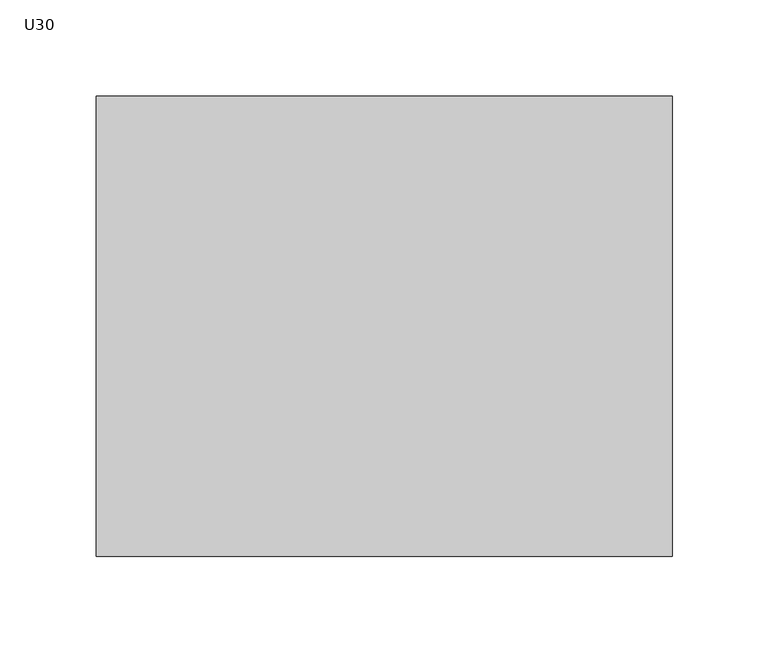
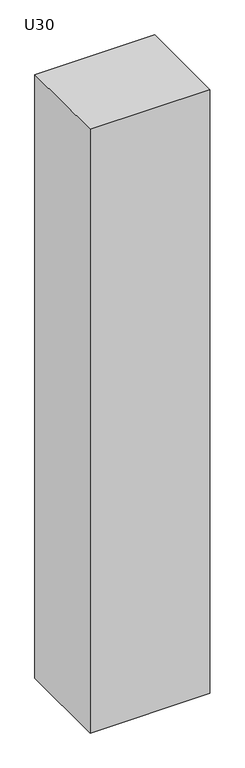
"""IFC4 building model written with IfcOpenShell, lengths in millimetres: column geometry, U30_slup : U30."""

import ifcopenshell
import ifcopenshell.guid

model = None  # the IFC model being written
_history = None  # IfcOwnerHistory: only IFC2X3 demands one
_inside = {}  # id of a spatial element -> (the spatial element, [elements in it])
_under = {}  # id of a project, library or spatial element -> (it, [spatial elements below it])
_declared = {}  # id of a project -> (the project, [libraries it declares])
_typed = {}  # id of a type object -> (the type object, [elements of that type])
_made_of = {}  # id of a material, layer set ... -> (it, [elements and type objects made of it])


def new_model(schema):
    """Start an empty IFC model of exactly this schema.

    Asked for "IFC4X3", IfcOpenShell would pick the latest addendum, in which some entities
    have other attributes; the version numbers below select the first issue.
    IFC2X3 requires an IfcOwnerHistory on every rooted entity: one is made here for all.
    """
    global model, _history
    if schema == "IFC4X3":
        model = ifcopenshell.file(schema_version=(4, 3, 0, 0))
    else:
        model = ifcopenshell.file(schema=schema)
    _inside.clear()
    _under.clear()
    _declared.clear()
    _typed.clear()
    _made_of.clear()
    _history = None
    if model.schema == "IFC2X3":
        org = make("IfcOrganization", Name="unknown")
        user = make(
            "IfcPersonAndOrganization",
            ThePerson=make("IfcPerson", FamilyName="unknown"),
            TheOrganization=org,
        )
        app = make(
            "IfcApplication",
            ApplicationDeveloper=org,
            Version="unknown",
            ApplicationFullName="unknown",
            ApplicationIdentifier="unknown",
        )
        _history = make(
            "IfcOwnerHistory",
            OwningUser=user,
            OwningApplication=app,
            ChangeAction="ADDED",
            CreationDate=0,
        )
    return model


def make(cls, **values):
    """One entity of the class cls with the attributes given. An attribute that is None is left unset."""
    return model.create_entity(
        cls, **{name: value for name, value in values.items() if value is not None}
    )


def rooted(cls, **values):
    """An entity with a GlobalId (a new one), such as an element, a storey or a relation."""
    return make(cls, GlobalId=ifcopenshell.guid.new(), OwnerHistory=_history, **values)


def si_unit(unit_type, name, prefix=None):
    """IfcSIUnit, for example si_unit("LENGTHUNIT", "METRE", prefix="MILLI")."""
    return make("IfcSIUnit", UnitType=unit_type, Prefix=prefix, Name=name)


def assignment(units):
    """IfcUnitAssignment: the units of a project."""
    return None if units is None else make("IfcUnitAssignment", Units=units)


def point(xyz):
    """IfcCartesianPoint."""
    return None if xyz is None else make("IfcCartesianPoint", Coordinates=xyz)


def direction(xyz):
    """IfcDirection."""
    return None if xyz is None else make("IfcDirection", DirectionRatios=xyz)


def frame(location, z_axis=None, x_axis=None):
    """IfcAxis2Placement3D, a coordinate frame: its origin and axes. An axis left out is left unset."""
    return make(
        "IfcAxis2Placement3D",
        Location=point(location),
        Axis=direction(z_axis),
        RefDirection=direction(x_axis),
    )


def origin():
    """The frame at (0, 0, 0) with its axes left unset."""
    return frame((0.0, 0.0, 0.0))


def origin_with_axes():
    """The frame at (0, 0, 0) with the z axis (0, 0, 1) and the x axis (1, 0, 0) written out."""
    return frame((0.0, 0.0, 0.0), z_axis=(0.0, 0.0, 1.0), x_axis=(1.0, 0.0, 0.0))


def place(relative_to, where):
    """IfcLocalPlacement: puts the frame where relative to a parent placement (None: the world)."""
    return make(
        "IfcLocalPlacement", PlacementRelTo=relative_to, RelativePlacement=where
    )


def context(
    kind, dimensions, precision=None, world=None, true_north=None, identifier=None
):
    """IfcGeometricRepresentationContext, for example the 3D "Model" context."""
    return make(
        "IfcGeometricRepresentationContext",
        ContextIdentifier=identifier,
        ContextType=kind,
        CoordinateSpaceDimension=dimensions,
        Precision=precision,
        WorldCoordinateSystem=world,
        TrueNorth=true_north,
    )


def project(units=None, contexts=None):
    """IfcProject with its units and contexts."""
    return rooted(
        "IfcProject",
        Name="project",
        RepresentationContexts=contexts,
        UnitsInContext=assignment(units),
    )


def spatial(cls, under=None, at=None, **own):
    """A site, building, storey or space (cls), placed at a placement, below another one or the project."""
    s = rooted(cls, ObjectPlacement=at, **own)
    if under is not None:
        _under.setdefault(under.id(), (under, []))[1].append(s)
    return s


def polyline(points):
    """IfcPolyline through the points."""
    return make("IfcPolyline", Points=[point(p) for p in points])


def outline(outer, holes=None, kind="AREA"):
    """IfcArbitraryClosedProfileDef: a profile drawn as a closed curve; with holes, ...WithVoids."""
    if holes is None:
        return make("IfcArbitraryClosedProfileDef", ProfileType=kind, OuterCurve=outer)
    return make(
        "IfcArbitraryProfileDefWithVoids",
        ProfileType=kind,
        OuterCurve=outer,
        InnerCurves=holes,
    )


def extrude(swept, where, along, depth):
    """IfcExtrudedAreaSolid: the profile swept, set in the frame where, extruded along a direction by depth."""
    return make(
        "IfcExtrudedAreaSolid",
        SweptArea=swept,
        Position=where,
        ExtrudedDirection=direction(along),
        Depth=depth,
    )


def shape(context_of_items, identifier, shape_type, items):
    """IfcShapeRepresentation: the items that make up one representation, for example the "Body"."""
    return make(
        "IfcShapeRepresentation",
        ContextOfItems=context_of_items,
        RepresentationIdentifier=identifier,
        RepresentationType=shape_type,
        Items=items,
    )


def source(mapping_origin, context_of_items, identifier, shape_type, items):
    """IfcRepresentationMap: a shape defined once, which mapped items show again and again."""
    return make(
        "IfcRepresentationMap",
        MappingOrigin=mapping_origin,
        MappedRepresentation=shape(context_of_items, identifier, shape_type, items),
    )


def transform(
    local_origin,
    x_axis=None,
    y_axis=None,
    z_axis=None,
    scale=None,
    scale2=None,
    scale3=None,
    uniform=True,
):
    """IfcCartesianTransformationOperator3D, or its non-uniform kind. x_axis, y_axis, z_axis: its Axis1, 2, 3."""
    if uniform:
        return make(
            "IfcCartesianTransformationOperator3D",
            Axis1=direction(x_axis),
            Axis2=direction(y_axis),
            LocalOrigin=point(local_origin),
            Scale=scale,
            Axis3=direction(z_axis),
        )
    return make(
        "IfcCartesianTransformationOperator3DnonUniform",
        Axis1=direction(x_axis),
        Axis2=direction(y_axis),
        LocalOrigin=point(local_origin),
        Scale=scale,
        Axis3=direction(z_axis),
        Scale2=scale2,
        Scale3=scale3,
    )


def mapped(mapping_source, mapping_target):
    """IfcMappedItem: shows the shape of a source again, moved by a transform."""
    return make(
        "IfcMappedItem", MappingSource=mapping_source, MappingTarget=mapping_target
    )


def made_of(thing, what):
    """Note that an element or type object is made of a material, layer set ...; save() writes the relation."""
    if what is not None:
        _made_of.setdefault(what.id(), (what, []))[1].append(thing)
    return thing


def element(
    cls,
    number,
    at=None,
    inside=None,
    cuts=None,
    type_object=None,
    material=None,
    context=None,
    identifier="Body",
    shape_type=None,
    held_by="IfcProductDefinitionShape",
    body=None,
    shapes=None,
    **own,
):
    """One element of the class cls, such as IfcWall. Its Tag is "e" and its number.

    at: its placement. inside: the storey or other place that contains it. cuts: it is an
    opening in that element (IfcRelVoidsElement). A single representation is given by context,
    identifier, shape_type and body (its items); several are given by shapes. held_by: the class
    of the entity that holds the representations. save() writes the other relations.
    """
    e = rooted(cls, Tag="e%d" % number, ObjectPlacement=at, **own)
    if body is not None:
        shapes = [shape(context, identifier, shape_type, body)]
    if shapes is not None:
        e.Representation = make(held_by, Representations=shapes)
    if inside is not None:
        _inside.setdefault(inside.id(), (inside, []))[1].append(e)
    if cuts is not None:
        rooted(
            "IfcRelVoidsElement", RelatingBuildingElement=cuts, RelatedOpeningElement=e
        )
    if type_object is not None:
        _typed.setdefault(type_object.id(), (type_object, []))[1].append(e)
    return made_of(e, material)


def aggregate(whole, parts):
    """IfcRelAggregates: a whole, such as a stair, and the parts it consists of."""
    return rooted("IfcRelAggregates", RelatingObject=whole, RelatedObjects=parts)


def save(model, path):
    """Write the relations noted so far, then the file.

    IfcRelAggregates (storeys below a building ...), IfcRelContainedInSpatialStructure (elements
    in a storey), IfcRelDefinesByType, IfcRelAssociatesMaterial and IfcRelDeclares: one each for
    every whole, place, type object, material and project.
    """
    for whole, parts in _under.values():
        aggregate(whole, parts)
    for where, things in _inside.values():
        rooted(
            "IfcRelContainedInSpatialStructure",
            RelatedElements=things,
            RelatingStructure=where,
        )
    for kind, things in _typed.values():
        rooted("IfcRelDefinesByType", RelatedObjects=things, RelatingType=kind)
    for what, things in _made_of.values():
        rooted("IfcRelAssociatesMaterial", RelatedObjects=things, RelatingMaterial=what)
    for by, libraries in _declared.values():
        rooted("IfcRelDeclares", RelatingContext=by, RelatedDefinitions=libraries)
    model.write(path)


def u30_49fbe9f8(model_context):
    return source(origin(), model_context, "Body", "SweptSolid", [
        extrude(outline(polyline([(-150.0, -120.0), (-150.0, 120.0), (150.0, 120.0), (150.0, -120.0), (-150.0, -120.0)])), origin_with_axes(), (0.0, 0.0, 1.0), 1600.0),
    ])


if __name__ == "__main__":
    model = new_model("IFC4")
    model_context = context("Model", 3, world=origin())
    ifc_project = project(units=[si_unit("LENGTHUNIT", "METRE", prefix="MILLI")], contexts=[model_context])
    site = spatial("IfcSite", under=ifc_project)
    building = spatial("IfcBuilding", under=site)
    placement = place(None, origin())
    u30_shape = u30_49fbe9f8(model_context)
    element("IfcColumn", 1, ObjectType="U30_slup : U30", at=placement, inside=building, context=model_context, shape_type="MappedRepresentation", body=[
        mapped(u30_shape, transform((0.0, 0.0, 0.0), x_axis=(1.0, 0.0, 0.0), y_axis=(0.0, 1.0, 0.0), z_axis=(0.0, 0.0, 1.0))),
    ])
    save(model, "model.ifc")
